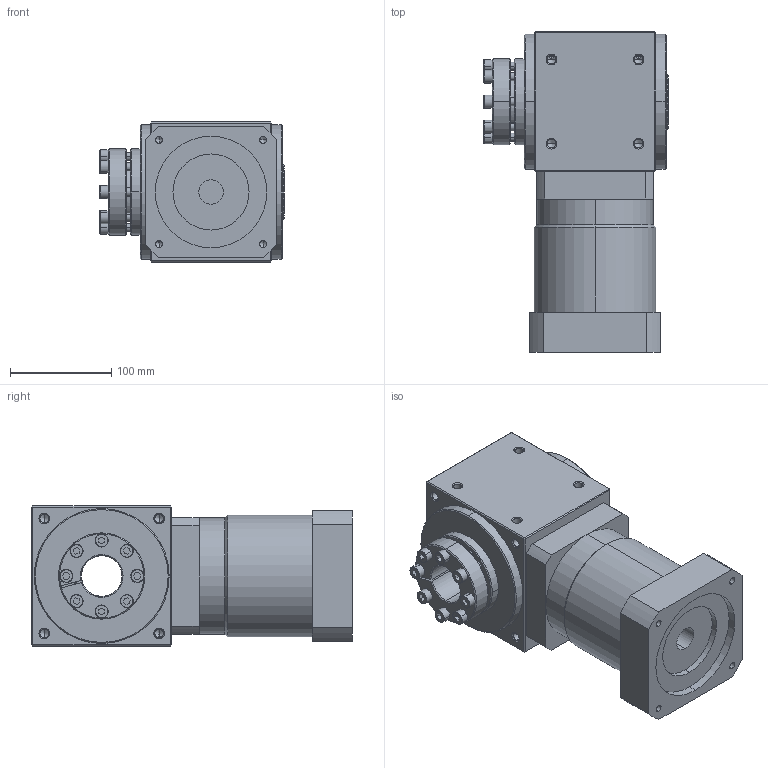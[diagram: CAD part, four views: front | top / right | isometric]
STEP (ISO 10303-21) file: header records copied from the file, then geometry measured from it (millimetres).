
FILE_DESCRIPTION (( 'STEP AP214' ), '1' );
FILE_NAME ('AAW135AS-L2-RFHP 24-110-145-M8.STEP', '2021-04-24T03:45:17', ( 'Microsoft' ), ( 'Microsoft China' ), 'SwSTEP 2.0', 'SolidWorks 2016', '' );
FILE_SCHEMA (( 'AUTOMOTIVE_DESIGN' ));
Length unit declared in the file: millimetre
Products named in the file (4): [内六角圆柱头螺钉M8×30]_1; 揤啣_1; AAW135AS-L1-RFHP-2000W_1; AAW135AS-L2-RFHP 24-110-145-M8
Assembly tree (10 placements, depth 2):
  AAW135AS-L2-RFHP 24-110-145-M8
    AAW135AS-L1-RFHP-2000W_1
    揤啣_1
    [内六角圆柱头螺钉M8×30]_1  x8
Bounding box: 181.5 x 316 x 138 mm (x, y, z)
Volume: 4595068.2 mm3; surface area: 303402.4 mm2
Topology: 11 solids, 11 shells, 472 faces, 1106 edges, 640 vertices
Faces by surface type: cone 153, cylinder 152, plane 135, bspline 32
Entity records: 13349 total; most frequent: CARTESIAN_POINT 1829, DIRECTION 1750, ORIENTED_EDGE 1488, EDGE_CURVE 744, AXIS2_PLACEMENT_3D 695, VERTEX_POINT 458, EDGE_LOOP 396, VECTOR 360
